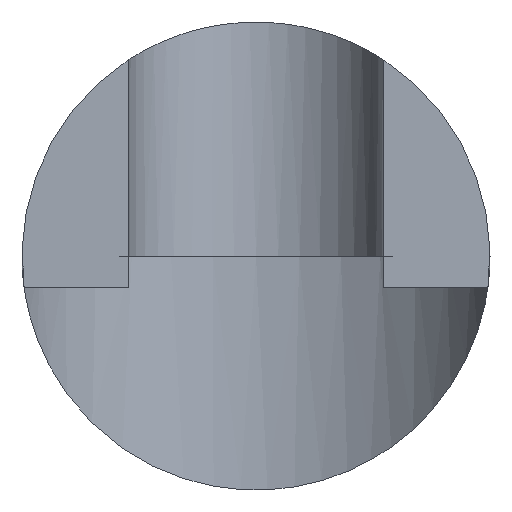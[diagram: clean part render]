
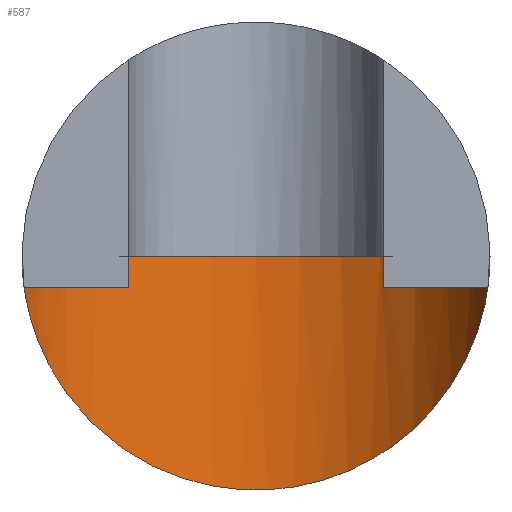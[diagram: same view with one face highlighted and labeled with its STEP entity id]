
A CAD part, front view. The second image highlights one B-rep face of the part: STEP entity #587.
In plain terms, the highlighted cylindrical face has radius 8 mm (diameter 16 mm), a partial arc.
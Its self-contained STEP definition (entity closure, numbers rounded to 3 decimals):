
#131=CARTESIAN_POINT('',(-7.5,-35.216,0.));
#132=CARTESIAN_POINT('',(-7.5,-35.216,-0.205));
#133=CARTESIAN_POINT('',(-7.484,-35.171,
-0.615));
#134=CARTESIAN_POINT('',(-7.405,-34.969,
-1.241));
#135=CARTESIAN_POINT('',(-7.283,-34.683,
-1.823));
#136=CARTESIAN_POINT('',(-7.124,-34.353,
-2.367));
#137=CARTESIAN_POINT('',(-6.937,-34.007,
-2.869));
#138=CARTESIAN_POINT('',(-6.704,-33.626,
-3.379));
#139=CARTESIAN_POINT('',(-6.399,-33.186,
-3.932));
#140=CARTESIAN_POINT('',(-5.996,-32.689,
-4.526));
#141=CARTESIAN_POINT('',(-5.506,-32.18,
-5.113));
#142=CARTESIAN_POINT('',(-4.913,-31.668,
-5.688));
#143=CARTESIAN_POINT('',(-4.21,-31.178,
-6.23));
#144=CARTESIAN_POINT('',(-3.394,-30.734,
-6.712));
#145=CARTESIAN_POINT('',(-2.46,-30.364,
-7.111));
#146=CARTESIAN_POINT('',(-1.452,-30.11,
-7.382));
#147=CARTESIAN_POINT('',(-0.446,-29.992,
-7.509));
#148=CARTESIAN_POINT('',(0.551,-29.998,
-7.502));
#149=CARTESIAN_POINT('',(1.557,-30.13,-7.361));
#150=CARTESIAN_POINT('',(2.565,-30.399,-7.073));
#151=CARTESIAN_POINT('',(3.486,-30.779,-6.664));
#152=CARTESIAN_POINT('',(4.268,-31.217,-6.187));
#153=CARTESIAN_POINT('',(4.906,-31.667,-5.69));
#154=CARTESIAN_POINT('',(5.423,-32.107,-5.195));
#155=CARTESIAN_POINT('',(5.84,-32.523,-4.719));
#156=CARTESIAN_POINT('',(6.17,-32.901,-4.274));
#157=CARTESIAN_POINT('',(6.437,-33.243,-3.859));
#158=CARTESIAN_POINT('',(6.68,-33.591,-3.423));
#159=CARTESIAN_POINT('',(6.895,-33.936,-2.966));
#160=CARTESIAN_POINT('',(7.071,-34.252,-2.516));
#161=CARTESIAN_POINT('',(7.215,-34.54,-2.066));
#162=CARTESIAN_POINT('',(7.334,-34.801,-1.594));
#163=CARTESIAN_POINT('',(7.426,-35.023,-1.091));
#164=CARTESIAN_POINT('',(7.486,-35.179,
-0.554));
#165=CARTESIAN_POINT('',(7.5,-35.216,-0.186));
#166=CARTESIAN_POINT('',(7.5,-35.216,0.));
#218=CARTESIAN_POINT('',(0.,-38.,0.));
#219=DIRECTION('',(0.,0.,-1.));
#220=DIRECTION('',(-0.938,0.348,0.));
#221=AXIS2_PLACEMENT_3D('',#218,#219,#220);
#414=CARTESIAN_POINT('',(7.5,-35.216,0.));
#416=VERTEX_POINT('',#414);
#418=CARTESIAN_POINT('',(-7.5,-35.216,0.));
#420=VERTEX_POINT('',#418);
#577=CARTESIAN_POINT('',(0.,-38.,0.));
#578=DIRECTION('',(0.,0.,-1.));
#579=DIRECTION('',(1.,0.,0.));
#580=AXIS2_PLACEMENT_3D('',#577,#578,#579);
#581=CYLINDRICAL_SURFACE('',#580,8.);
#582=ORIENTED_EDGE('',*,*,#569,.F.);
#584=ORIENTED_EDGE('',*,*,#583,.T.);
#585=EDGE_LOOP('',(#582,#584));
#586=FACE_OUTER_BOUND('',#585,.F.);
#587=ADVANCED_FACE('',(#586),#581,.F.);
#167=B_SPLINE_CURVE_WITH_KNOTS('',3,(#131,#132,#133,#134,#135,#136,#137,#138,
#139,#140,#141,#142,#143,#144,#145,#146,#147,#148,#149,#150,#151,#152,#153,#154,
#155,#156,#157,#158,#159,#160,#161,#162,#163,#164,#165,#166),.UNSPECIFIED.,.F.,
.F.,(4,1,1,1,1,1,1,1,1,1,1,1,1,1,1,1,1,1,1,1,1,1,1,1,1,1,1,1,1,1,1,1,1,4),(0.,
0.03,0.061,0.091,0.121,
0.152,0.182,0.212,0.242,
0.273,0.303,0.333,0.364,
0.394,0.424,0.455,0.485,
0.515,0.545,0.576,0.606,
0.636,0.667,0.697,0.727,
0.758,0.788,0.818,0.848,
0.879,0.909,0.939,0.97,1.),
.UNSPECIFIED.);
#222=CIRCLE('',#221,8.);
#569=EDGE_CURVE('',#420,#416,#167,.T.);
#583=EDGE_CURVE('',#420,#416,#222,.T.);
